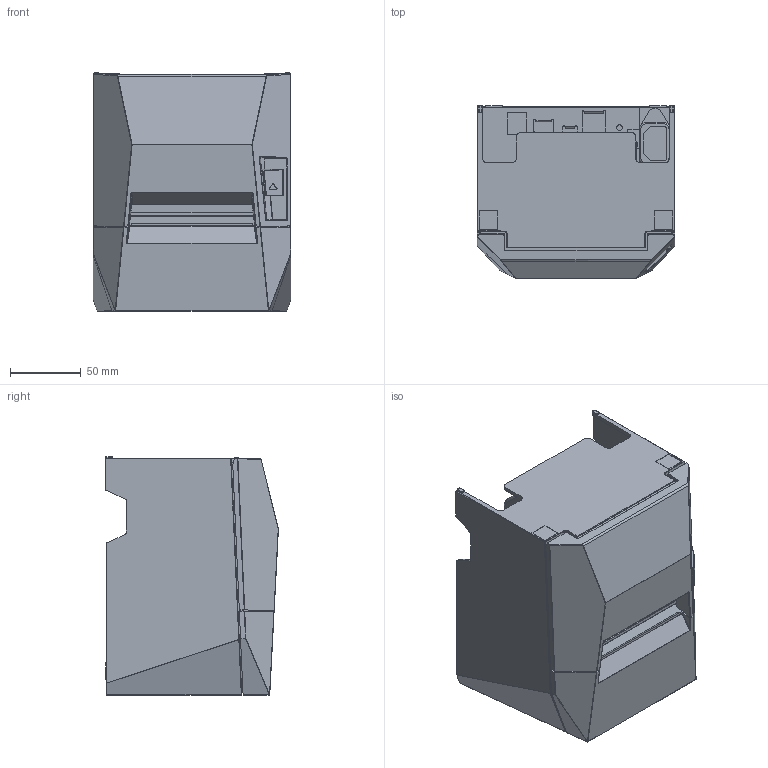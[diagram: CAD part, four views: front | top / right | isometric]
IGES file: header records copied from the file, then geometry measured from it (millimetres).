
Start section: Elysium IGES Interface
Global section: file name: 100HX:\Develop\Personal\Nagashima\TSP100IV営業提出用\提出用簡易モデル\TSP100IV_公開用外観3D_20220425.igs; native system: Creo Elements/Direct Modeling 20.3A  20-Jun-2020; preprocessor: Creo Element/Direct IGES_3D V2.2; author: Unknown; organization: Unknown; date: 20220425.093539; units: millimetre
Bounding box: 140 x 122.48 x 169 mm (x, y, z)
Volume: 2101464.4 mm3; surface area: 159440.7 mm2
Topology: 1 solids, 1 shells, 1018 faces, 2689 edges, 1717 vertices
Faces by surface type: bspline 1018
